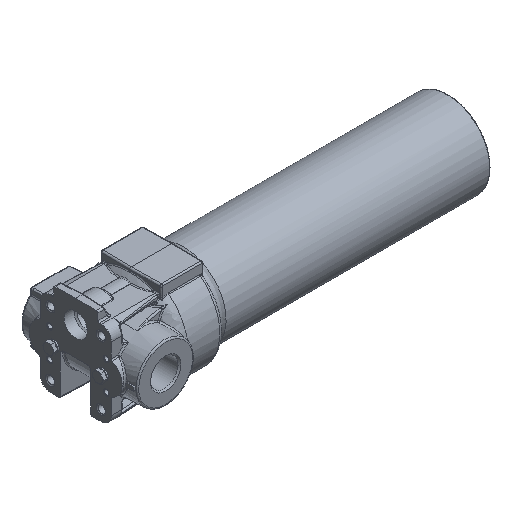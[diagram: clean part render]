
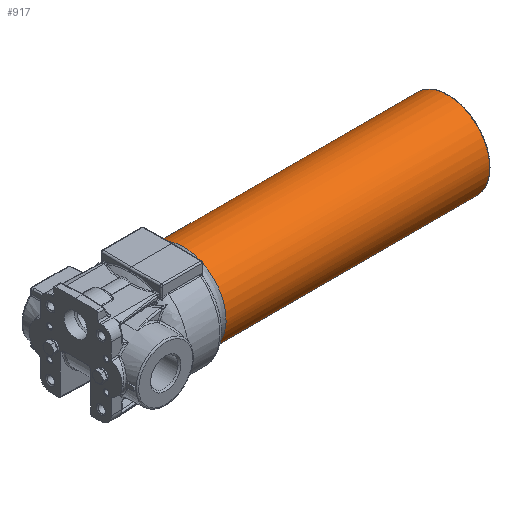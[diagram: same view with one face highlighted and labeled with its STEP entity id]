
A CAD part, isometric view. The second image highlights one B-rep face of the part: STEP entity #917.
In plain terms, the highlighted free-form (B-spline) face has degree [2, 1] with [7, 2] control points.
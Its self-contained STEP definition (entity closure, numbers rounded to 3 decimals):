
#830=CARTESIAN_POINT('V701',(189.105,-29.0,0.0));
#831=VERTEX_POINT('V701',#830);
#847=CARTESIAN_POINT('E1278',(189.105,-29.0,0.0));
#848=CARTESIAN_POINT('E1278',(189.105,-29.0,
   -50.229));
#849=CARTESIAN_POINT('E1278',(189.105,14.5,
   -25.115));
#850=CARTESIAN_POINT('E1278',(189.105,58.0,0.0));
#851=CARTESIAN_POINT('E1278',(189.105,14.5,
   25.115));
#852=CARTESIAN_POINT('E1278',(189.105,-29.0,
   50.229));
#853=CARTESIAN_POINT('E1278',(189.105,-29.0,0.0));
#861=(BOUNDED_CURVE()B_SPLINE_CURVE(2,(#847,#848,#849,#850,#851,
   #852,#853),.CIRCULAR_ARC.,.T.,.U.)B_SPLINE_CURVE_WITH_KNOTS((3,
   2,2,3),(0.0,0.553,1.107,
   1.66),.UNSPECIFIED.)CURVE()
   GEOMETRIC_REPRESENTATION_ITEM()RATIONAL_B_SPLINE_CURVE((1.0,
   0.5,1.0,0.5,1.0,0.5,1.0)
   )REPRESENTATION_ITEM('E1278'));
#862=EDGE_CURVE('E1278',#831,#831,#861,.T.);
#867=CARTESIAN_POINT('F531',(189.105,-29.0,0.0));
#868=CARTESIAN_POINT('F531',(189.105,-29.0,
   50.229));
#869=CARTESIAN_POINT('F531',(189.105,14.5,
   25.115));
#870=CARTESIAN_POINT('F531',(189.105,58.0,0.)
   );
#871=CARTESIAN_POINT('F531',(189.105,14.5,
   -25.115));
#872=CARTESIAN_POINT('F531',(189.105,-29.0,
   -50.229));
#873=CARTESIAN_POINT('F531',(189.105,-29.0,0.0));
#874=CARTESIAN_POINT('F531',(7.571,-29.0,0.0));
#875=CARTESIAN_POINT('F531',(7.571,-29.0,
   50.229));
#876=CARTESIAN_POINT('F531',(7.571,14.5,
   25.115));
#877=CARTESIAN_POINT('F531',(7.571,58.0,0.)
   );
#878=CARTESIAN_POINT('F531',(7.571,14.5,
   -25.115));
#879=CARTESIAN_POINT('F531',(7.571,-29.0,
   -50.229));
#880=CARTESIAN_POINT('F531',(7.571,-29.0,0.0));
#888=(BOUNDED_SURFACE()B_SPLINE_SURFACE(2,1,((#867,#874),(#868,
   #875),(#869,#876),(#870,#877),(#871,#878),(#872,#879),(
   #873,#880)),.CYLINDRICAL_SURF.,.T.,.F.,.U.)
   B_SPLINE_SURFACE_WITH_KNOTS((3,2,2,3),(2,2),(0.0,
   0.553,1.107,1.66),(0.0,1.0),
   .UNSPECIFIED.)GEOMETRIC_REPRESENTATION_ITEM()
   RATIONAL_B_SPLINE_SURFACE(((1.0,1.0),(0.5,
   0.5),(1.0,1.0),(0.5,
   0.5),(1.0,1.0),(0.5,
   0.5),(1.0,1.0)))REPRESENTATION_ITEM('F531')
   SURFACE());
#889=CARTESIAN_POINT('V702',(7.571,-29.0,0.0));
#890=VERTEX_POINT('V702',#889);
#891=CARTESIAN_POINT('E1279',(7.571,-29.0,0.0));
#892=CARTESIAN_POINT('E1279',(189.105,-29.0,0.0));
#893=QUASI_UNIFORM_CURVE('E1279',1,(#891,#892),.POLYLINE_FORM.,.F.,
   .U.);
#894=EDGE_CURVE('E1279',#890,#831,#893,.T.);
#895=ORIENTED_EDGE('E1279',*,*,#894,.T.);
#896=ORIENTED_EDGE('F530',*,*,#862,.F.);
#897=ORIENTED_EDGE('E1279',*,*,#894,.F.);
#898=CARTESIAN_POINT('E1280',(7.571,-29.0,0.0));
#899=CARTESIAN_POINT('E1280',(7.571,-29.0,
   50.229));
#900=CARTESIAN_POINT('E1280',(7.571,14.5,
   25.115));
#901=CARTESIAN_POINT('E1280',(7.571,58.0,0.)
   );
#902=CARTESIAN_POINT('E1280',(7.571,14.5,
   -25.115));
#903=CARTESIAN_POINT('E1280',(7.571,-29.0,
   -50.229));
#904=CARTESIAN_POINT('E1280',(7.571,-29.0,0.0));
#912=(BOUNDED_CURVE()B_SPLINE_CURVE(2,(#898,#899,#900,#901,#902,
   #903,#904),.CIRCULAR_ARC.,.T.,.U.)B_SPLINE_CURVE_WITH_KNOTS((3,
   2,2,3),(0.0,9.338,18.675,
   28.013),.UNSPECIFIED.)CURVE()
   GEOMETRIC_REPRESENTATION_ITEM()RATIONAL_B_SPLINE_CURVE((1.0,
   0.5,1.0,0.5,1.0,0.5,1.0)
   )REPRESENTATION_ITEM('E1280'));
#913=EDGE_CURVE('E1280',#890,#890,#912,.T.);
#914=ORIENTED_EDGE('E1280',*,*,#913,.F.);
#915=EDGE_LOOP('F531',(#895,#896,#897,#914));
#916=FACE_OUTER_BOUND('F531',#915,.T.);
#917=ADVANCED_FACE('F531',(#916),#888,.T.);
